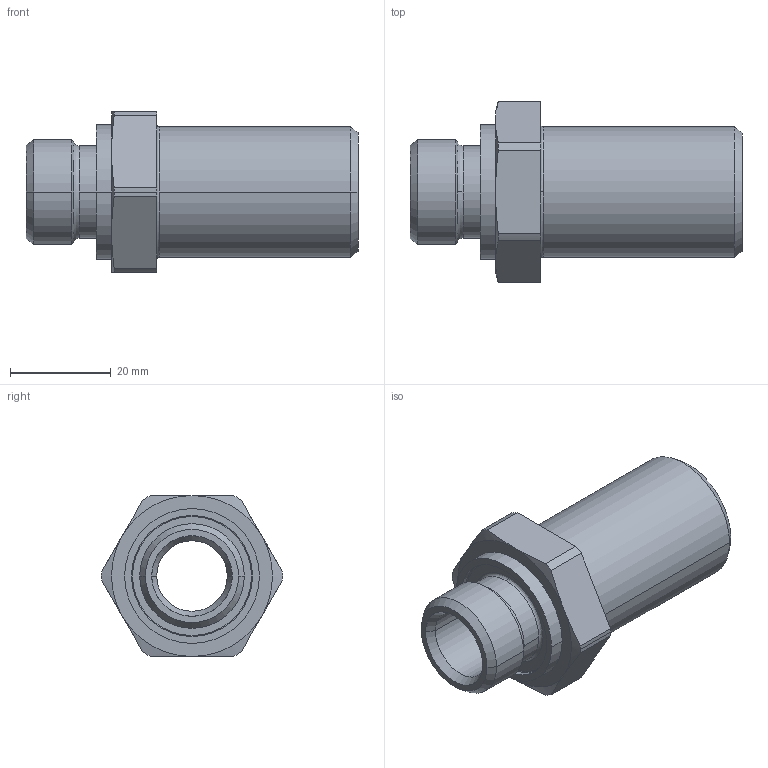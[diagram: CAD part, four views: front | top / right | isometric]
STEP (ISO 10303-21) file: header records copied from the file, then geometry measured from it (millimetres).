
FILE_DESCRIPTION((''),'2;1');
FILE_NAME('104909.stp','2007-10-31T13:59:17',(''),(''),'AutoCAD STEP 2000i','AutoCAD 2000i',', , ');
FILE_SCHEMA(('CONFIG_CONTROL_DESIGN'));
Length unit declared in the file: millimetre
Products named in the file (2): 104909.0; CHIAVE SMUSSX1036#0
Assembly tree (1 placements, depth 2):
  104909.0
    CHIAVE SMUSSX1036#0
Bounding box: 66 x 36 x 32 mm (x, y, z)
Volume: 23534.6 mm3; surface area: 9852.1 mm2
Topology: 1 solids, 1 shells, 63 faces, 157 edges, 101 vertices
Faces by surface type: cylinder 22, cone 16, plane 13, bspline 10, torus 2
Entity records: 2425 total; most frequent: CARTESIAN_POINT 787, DIRECTION 356, ORIENTED_EDGE 314, EDGE_CURVE 157, AXIS2_PLACEMENT_3D 156, VERTEX_POINT 101, CIRCLE 101, EDGE_LOOP 70
